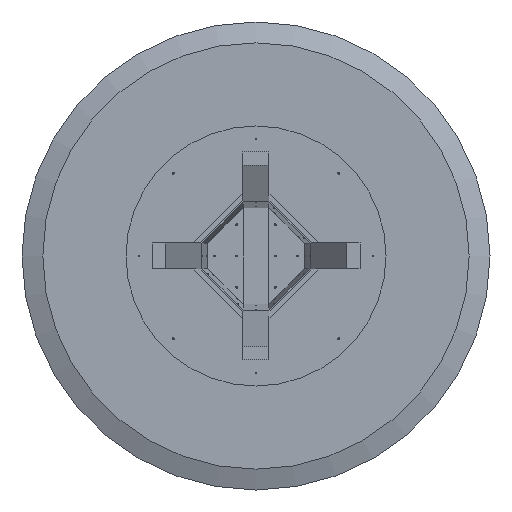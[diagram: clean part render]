
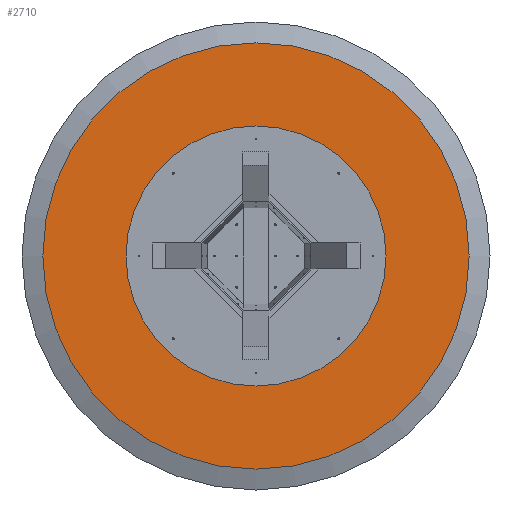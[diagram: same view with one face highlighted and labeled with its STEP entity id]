
A CAD part, front view. The second image highlights one B-rep face of the part: STEP entity #2710.
In plain terms, the highlighted planar face has unit normal (0, -1, 0).
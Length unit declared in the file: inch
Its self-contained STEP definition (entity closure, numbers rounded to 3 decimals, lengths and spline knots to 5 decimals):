
#411=CIRCLE('',#3229,24.59596);
#723=FACE_OUTER_BOUND('',#856,.T.);
#856=EDGE_LOOP('',(#2091));
#1452=VERTEX_POINT('',#4756);
#1680=EDGE_CURVE('',#1452,#1452,#411,.T.);
#2091=ORIENTED_EDGE('',*,*,#1680,.F.);
#2447=PLANE('',#3232);
#2710=ADVANCED_FACE('',(#723),#2447,.F.);
#3229=AXIS2_PLACEMENT_3D('',#4758,#3867,#3868);
#3232=AXIS2_PLACEMENT_3D('',#4763,#3874,#3875);
#3867=DIRECTION('center_axis',(0.,1.,0.));
#3868=DIRECTION('ref_axis',(-1.,0.,0.));
#3874=DIRECTION('center_axis',(0.,1.,0.));
#3875=DIRECTION('ref_axis',(0.,0.,1.));
#4756=CARTESIAN_POINT('',(26.09596,28.,0.));
#4758=CARTESIAN_POINT('Origin',(1.5,28.,0.));
#4763=CARTESIAN_POINT('Origin',(1.5,28.,0.));
